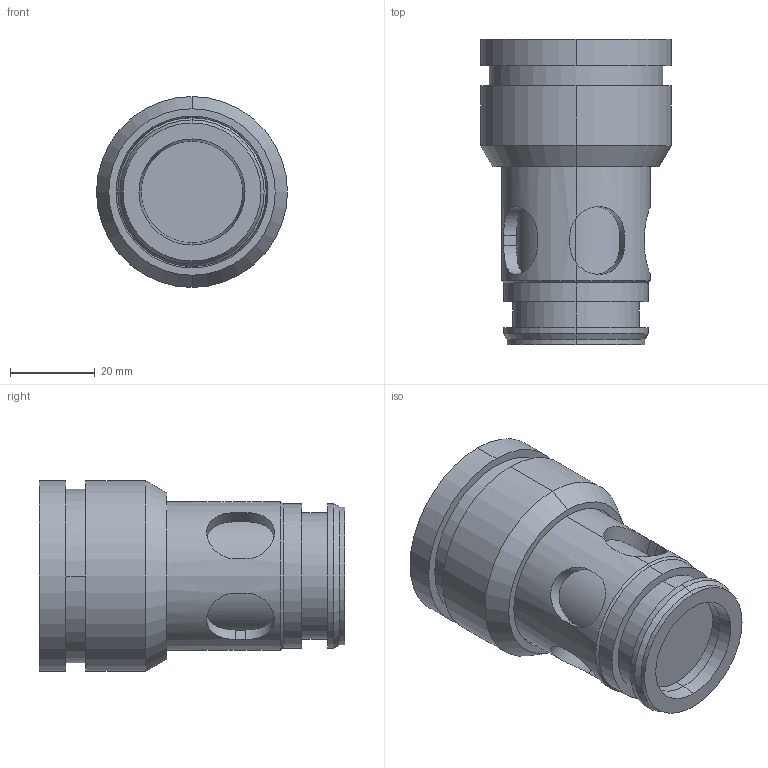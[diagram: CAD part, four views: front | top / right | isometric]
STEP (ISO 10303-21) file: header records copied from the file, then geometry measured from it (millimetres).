
FILE_DESCRIPTION (( 'STEP AP214' ), '1' );
FILE_NAME ('C.EN25-11.STEP', '2019-03-12T08:28:17', ( '' ), ( '' ), 'SwSTEP 2.0', 'SolidWorks 2018', '' );
FILE_SCHEMA (( 'AUTOMOTIVE_DESIGN' ));
Length unit declared in the file: millimetre
Products named in the file (1): C.EN25-11
Bounding box: 45 x 71.9 x 45 mm (x, y, z)
Volume: 74765 mm3; surface area: 14338.1 mm2
Topology: 1 solids, 1 shells, 68 faces, 151 edges, 96 vertices
Faces by surface type: cylinder 38, plane 20, cone 10
Entity records: 3381 total; most frequent: CARTESIAN_POINT 1182, DIRECTION 313, ORIENTED_EDGE 302, EDGE_CURVE 151, AXIS2_PLACEMENT_3D 119, VERTEX_POINT 96, EDGE_LOOP 79, LINE 75
